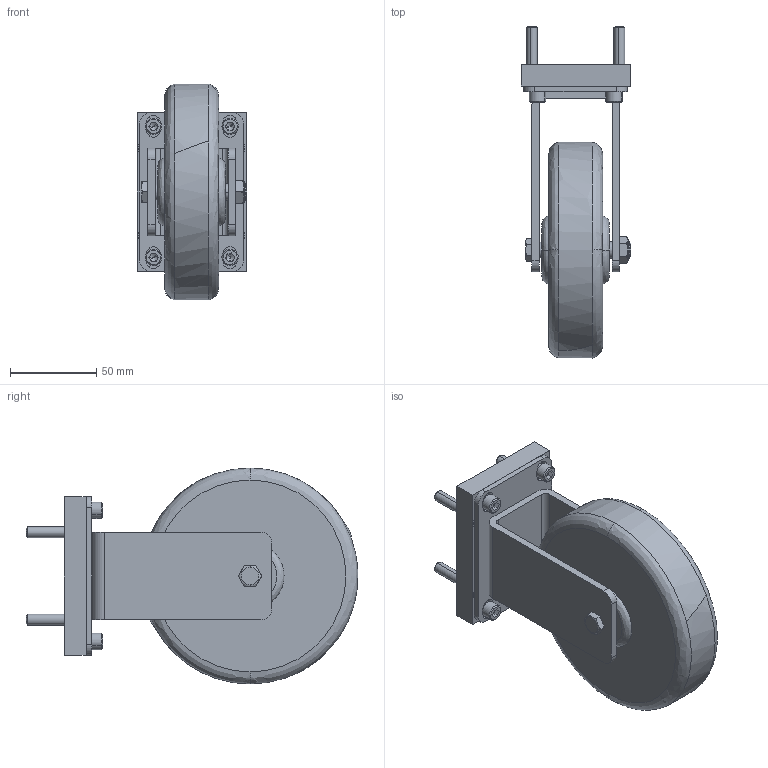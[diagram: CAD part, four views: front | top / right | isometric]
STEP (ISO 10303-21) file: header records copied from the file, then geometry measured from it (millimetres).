
FILE_DESCRIPTION (( 'STEP AP214' ), '1' );
FILE_NAME ('H030071100.STEP', '2014-02-11T16:11:47', ( 'Eric_Werenskjold' ), ( '' ), 'SwSTEP 2.0', 'SolidWorks 2014', '' );
FILE_SCHEMA (( 'AUTOMOTIVE_DESIGN' ));
Length unit declared in the file: inch
Products named in the file (5): Socket Head Cap Screw_Derived Ansi Inch Standard_HX-SHCS 0.25-20x1.125x1.125-N; H030022100; Socket Head Cap Screw_Derived Ansi Inch Standard_HX-SHCS 0.25-20x0.625x0.625-N; H030042100; H030071100
Assembly tree (10 placements, depth 2):
  H030071100
    H030042100
    Socket Head Cap Screw_Derived Ansi Inch Standard_HX-SHCS 0.25-20x0.625x0.625-N  x4
    H030022100
    Socket Head Cap Screw_Derived Ansi Inch Standard_HX-SHCS 0.25-20x1.125x1.125-N  x4
Bounding box: 63.93 x 192.91 x 125.5 mm (x, y, z)
Volume: 541748.8 mm3; surface area: 98472.7 mm2
Topology: 13 solids, 13 shells, 374 faces, 880 edges, 540 vertices
Faces by surface type: plane 182, cylinder 98, cone 48, bspline 30, torus 16
Entity records: 8779 total; most frequent: CARTESIAN_POINT 1833, DIRECTION 1110, ORIENTED_EDGE 1056, EDGE_CURVE 528, AXIS2_PLACEMENT_3D 427, VERTEX_POINT 342, LINE 256, VECTOR 256
